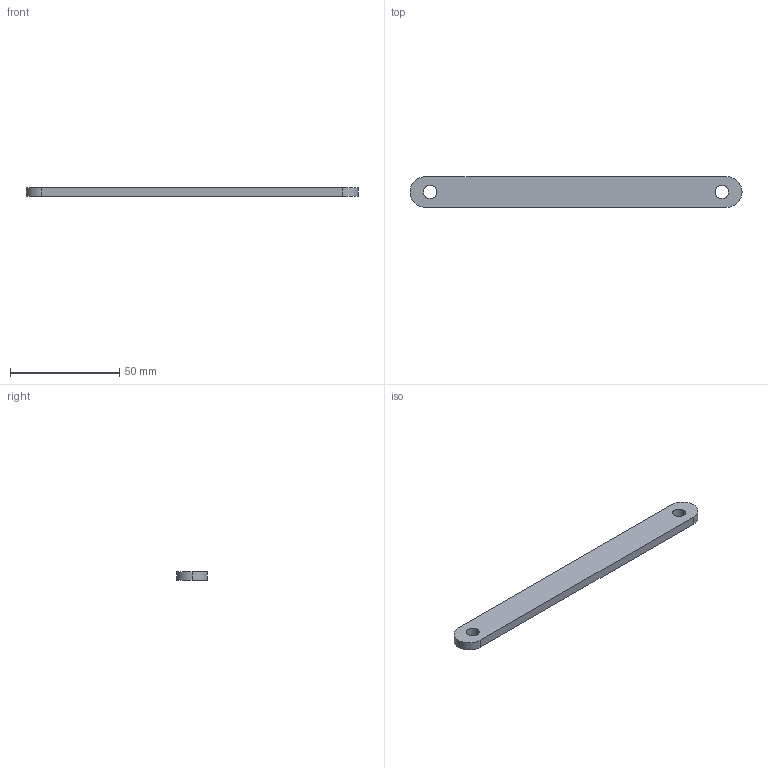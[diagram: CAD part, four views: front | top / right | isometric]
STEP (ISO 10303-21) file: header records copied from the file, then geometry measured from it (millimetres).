
FILE_DESCRIPTION (( 'STEP AP214' ), '1' );
FILE_NAME ('Solera.STEP', '2019-05-12T01:59:45', ( '' ), ( '' ), 'SwSTEP 2.0', 'SolidWorks 2018', '' );
FILE_SCHEMA (( 'AUTOMOTIVE_DESIGN' ));
Length unit declared in the file: millimetre
Products named in the file (1): Solera
Bounding box: 152.18 x 14 x 4 mm (x, y, z)
Volume: 8127.7 mm3; surface area: 5496 mm2
Topology: 1 solids, 1 shells, 11 faces, 27 edges, 18 vertices
Faces by surface type: cylinder 7, plane 4
Entity records: 377 total; most frequent: DIRECTION 65, CARTESIAN_POINT 57, ORIENTED_EDGE 54, EDGE_CURVE 27, AXIS2_PLACEMENT_3D 26, VERTEX_POINT 18, EDGE_LOOP 15, CIRCLE 14
